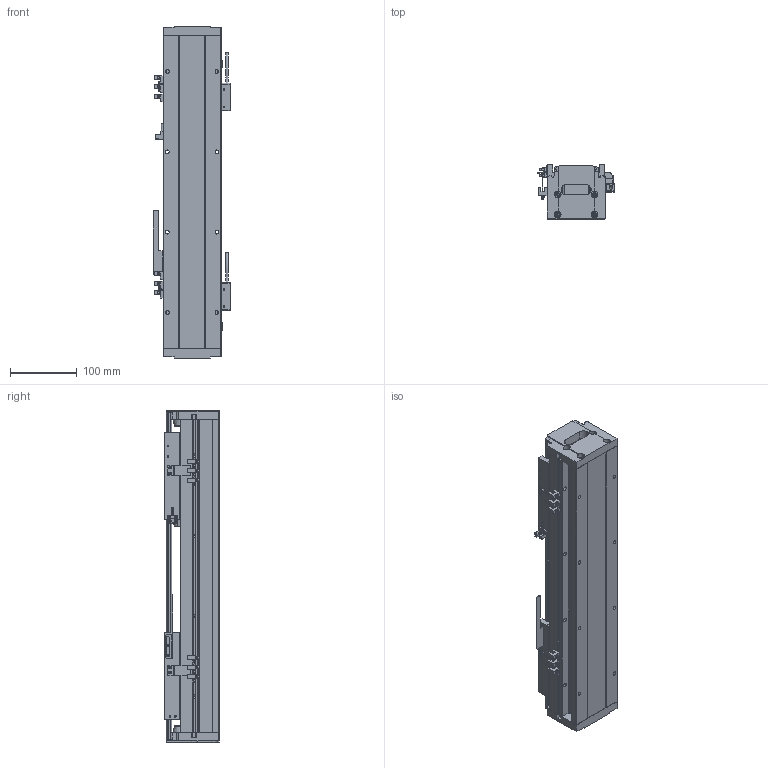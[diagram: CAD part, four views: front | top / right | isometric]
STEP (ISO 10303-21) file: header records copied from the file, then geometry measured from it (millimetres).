
FILE_DESCRIPTION (( 'STEP AP214' ), '1' );
FILE_NAME ('STC086-A-P-0298-2F105-MB-010-0.3.STEP', '2023-05-11T03:12:50', ( '' ), ( '' ), 'SwSTEP 2.0', 'SolidWorks 2018', '' );
FILE_SCHEMA (( 'AUTOMOTIVE_DESIGN' ));
Length unit declared in the file: millimetre
Products named in the file (62): 086-Lxxxx菁釱; 賑輸SRS12M; SKT0112-02（线缆固定件）; 絳寢SRS12M+xxxxL-G10; SF-202NA-W（光电开关）; HC-U-02-Lxxx棠掑喜; STK013-01（磁栅压块）; 蝶菜17x14x10; 086-SE1-040-S賑怢; SE040隅赽; 086-Lxxxx裔啣; SL-205NA-W（光电开关）; LMD-2-R001-V5-L0.3-C0-F00（磁栅编码器）; STK0112-01（感应片）(默认); STK0066-001（086端盖）; STC086-A-P-0298-2F105-MB-010-0.3; STK0086-001（086读头固定块）; STK080-F105賑怢蚾饜极; STK0095-001（多动子感应片）; STK080-F105賑怢蚾饜极-1
Assembly tree (44 placements, depth 3):
  賑輸SRS12M
  SKT0112-02（线缆固定件）
  絳寢SRS12M+xxxxL-G10
  SF-202NA-W（光电开关）
  STK013-01（磁栅压块）
Bounding box: 115.7 x 81 x 496 mm (x, y, z)
Volume: 2097574.9 mm3; surface area: 637312.5 mm2
Topology: 42 solids, 42 shells, 3153 faces, 8488 edges, 5378 vertices
Faces by surface type: plane 1626, cylinder 1184, cone 289, torus 24, bspline 22, sphere 8
Entity records: 49698 total; most frequent: CARTESIAN_POINT 9845, ORIENTED_EDGE 7986, DIRECTION 7953, EDGE_CURVE 3993, AXIS2_PLACEMENT_3D 2695, VERTEX_POINT 2605, LINE 2563, VECTOR 2563
